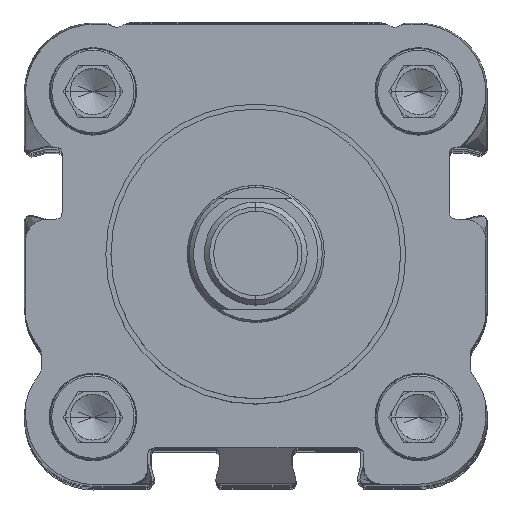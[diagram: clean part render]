
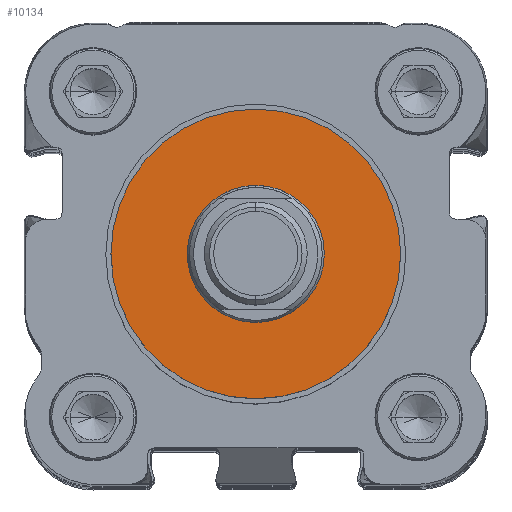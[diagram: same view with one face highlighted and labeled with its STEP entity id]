
A CAD part, top view. The second image highlights one B-rep face of the part: STEP entity #10134.
In plain terms, the highlighted planar face has unit normal (0, 0, 1).
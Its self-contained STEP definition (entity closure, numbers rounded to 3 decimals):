
#6372 = CARTESIAN_POINT ( 'NONE',  ( -8., 0., 51. ) ) ;
#6401 = CARTESIAN_POINT ( 'NONE',  ( 8., 0., 51. ) ) ;
#6406 = DIRECTION ( 'NONE',  ( 1., 0., 0. ) ) ;
#6407 = DIRECTION ( 'NONE',  ( 0., 0., 1. ) ) ;
#6408 = CARTESIAN_POINT ( 'NONE',  ( 0., 0., 51. ) ) ;
#6409 = AXIS2_PLACEMENT_3D ( 'NONE', #6408, #6407, #6406 ) ;
#6410 = CIRCLE ( 'NONE', #6409, 8. ) ;
#10078 = EDGE_CURVE ( 'NONE', #22579, #22578, #25492, .T. ) ;
#10134 = ADVANCED_FACE ( 'NONE', ( #25679, #25678 ), #25617, .T. ) ;
#10136 = EDGE_LOOP ( 'NONE', ( #10137, #10139 ) ) ;
#10137 = ORIENTED_EDGE ( 'NONE', *, *, #10138, .F. ) ;
#10138 = EDGE_CURVE ( 'NONE', #14632, #14609, #25673, .T. ) ;
#10139 = ORIENTED_EDGE ( 'NONE', *, *, #14630, .F. ) ;
#10140 = EDGE_LOOP ( 'NONE', ( #10141, #10142 ) ) ;
#10141 = ORIENTED_EDGE ( 'NONE', *, *, #10078, .T. ) ;
#10142 = ORIENTED_EDGE ( 'NONE', *, *, #22643, .T. ) ;
#14609 = VERTEX_POINT ( 'NONE', #6372 ) ;
#14630 = EDGE_CURVE ( 'NONE', #14609, #14632, #6410, .T. ) ;
#14632 = VERTEX_POINT ( 'NONE', #6401 ) ;
#22578 = VERTEX_POINT ( 'NONE', #46600 ) ;
#22579 = VERTEX_POINT ( 'NONE', #46599 ) ;
#22643 = EDGE_CURVE ( 'NONE', #22578, #22579, #46735, .T. ) ;
#25489 = DIRECTION ( 'NONE',  ( 0., 0., 1. ) ) ;
#25490 = CARTESIAN_POINT ( 'NONE',  ( 0., 0., 51. ) ) ;
#25491 = AXIS2_PLACEMENT_3D ( 'NONE', #25490, #25489, #25540 ) ;
#25492 = CIRCLE ( 'NONE', #25491, 16.9 ) ;
#25540 = DIRECTION ( 'NONE',  ( 1., 0., 0. ) ) ;
#25617 = PLANE ( 'NONE',  #25677 ) ;
#25669 = DIRECTION ( 'NONE',  ( 1., 0., 0. ) ) ;
#25670 = DIRECTION ( 'NONE',  ( 0., 0., 1. ) ) ;
#25671 = CARTESIAN_POINT ( 'NONE',  ( 0., 0., 51. ) ) ;
#25672 = AXIS2_PLACEMENT_3D ( 'NONE', #25671, #25670, #25669 ) ;
#25673 = CIRCLE ( 'NONE', #25672, 8. ) ;
#25674 = DIRECTION ( 'NONE',  ( 1., 0., 0. ) ) ;
#25675 = DIRECTION ( 'NONE',  ( 0., 0., 1. ) ) ;
#25676 = CARTESIAN_POINT ( 'NONE',  ( 0., 0., 51. ) ) ;
#25677 = AXIS2_PLACEMENT_3D ( 'NONE', #25676, #25675, #25674 ) ;
#25678 = FACE_OUTER_BOUND ( 'NONE', #10140, .T. ) ;
#25679 = FACE_BOUND ( 'NONE', #10136, .T. ) ;
#46599 = CARTESIAN_POINT ( 'NONE',  ( -16.9, 0., 51. ) ) ;
#46600 = CARTESIAN_POINT ( 'NONE',  ( 16.9, 0., 51. ) ) ;
#46731 = DIRECTION ( 'NONE',  ( 1., 0., 0. ) ) ;
#46732 = DIRECTION ( 'NONE',  ( 0., 0., 1. ) ) ;
#46733 = CARTESIAN_POINT ( 'NONE',  ( 0., 0., 51. ) ) ;
#46734 = AXIS2_PLACEMENT_3D ( 'NONE', #46733, #46732, #46731 ) ;
#46735 = CIRCLE ( 'NONE', #46734, 16.9 ) ;
